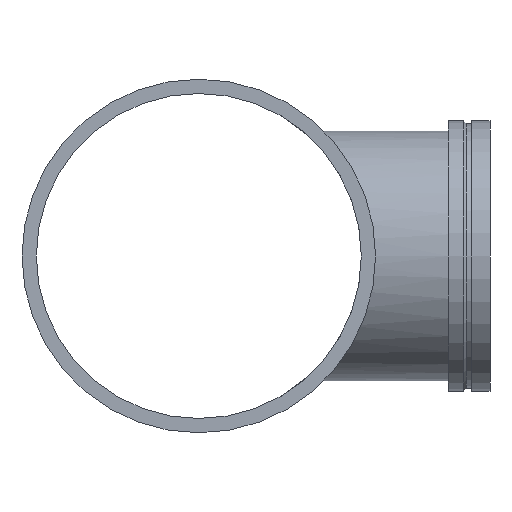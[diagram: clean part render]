
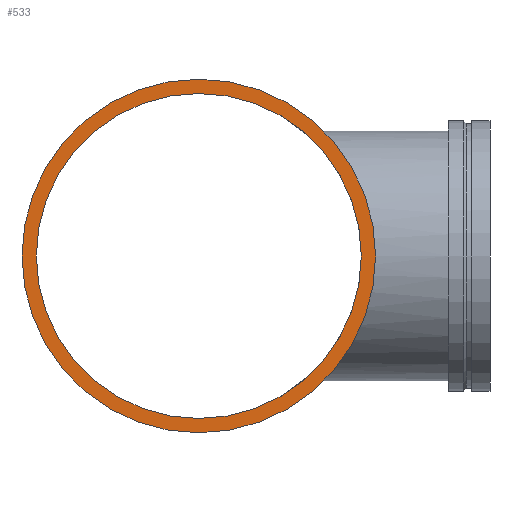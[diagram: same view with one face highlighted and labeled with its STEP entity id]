
A CAD part, left-side view. The second image highlights one B-rep face of the part: STEP entity #533.
In plain terms, the highlighted planar face has unit normal (-1, 0, 0).
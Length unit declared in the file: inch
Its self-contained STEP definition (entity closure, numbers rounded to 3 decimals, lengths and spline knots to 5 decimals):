
#58=FACE_BOUND('',#128,.T.);
#67=PLANE('',#626);
#92=FACE_OUTER_BOUND('',#127,.T.);
#127=EDGE_LOOP('',(#465,#466));
#128=EDGE_LOOP('',(#467,#468));
#151=CIRCLE('',#587,17.);
#152=CIRCLE('',#588,17.);
#175=CIRCLE('',#624,15.625);
#176=CIRCLE('',#625,15.625);
#239=VERTEX_POINT('',#1145);
#240=VERTEX_POINT('',#1147);
#263=VERTEX_POINT('',#1214);
#264=VERTEX_POINT('',#1216);
#299=EDGE_CURVE('',#239,#240,#151,.T.);
#300=EDGE_CURVE('',#240,#239,#152,.T.);
#331=EDGE_CURVE('',#264,#263,#175,.T.);
#332=EDGE_CURVE('',#263,#264,#176,.T.);
#465=ORIENTED_EDGE('',*,*,#300,.F.);
#466=ORIENTED_EDGE('',*,*,#299,.F.);
#467=ORIENTED_EDGE('',*,*,#331,.T.);
#468=ORIENTED_EDGE('',*,*,#332,.T.);
#533=ADVANCED_FACE('',(#92,#58),#67,.T.);
#587=AXIS2_PLACEMENT_3D('',#1148,#716,#717);
#588=AXIS2_PLACEMENT_3D('',#1149,#718,#719);
#624=AXIS2_PLACEMENT_3D('',#1217,#798,#799);
#625=AXIS2_PLACEMENT_3D('',#1218,#800,#801);
#626=AXIS2_PLACEMENT_3D('',#1219,#802,#803);
#716=DIRECTION('center_axis',(1.,0.,0.));
#717=DIRECTION('ref_axis',(0.,0.,1.));
#718=DIRECTION('center_axis',(1.,0.,0.));
#719=DIRECTION('ref_axis',(0.,0.,1.));
#798=DIRECTION('center_axis',(1.,0.,0.));
#799=DIRECTION('ref_axis',(0.,0.,1.));
#800=DIRECTION('center_axis',(1.,0.,0.));
#801=DIRECTION('ref_axis',(0.,0.,1.));
#802=DIRECTION('center_axis',(-1.,0.,0.));
#803=DIRECTION('ref_axis',(0.,0.,-1.));
#1145=CARTESIAN_POINT('',(-29.5,17.,0.));
#1147=CARTESIAN_POINT('',(-29.5,-17.,0.));
#1148=CARTESIAN_POINT('Origin',(-29.5,0.,0.));
#1149=CARTESIAN_POINT('Origin',(-29.5,0.,0.));
#1214=CARTESIAN_POINT('',(-29.5,15.625,0.));
#1216=CARTESIAN_POINT('',(-29.5,-15.625,0.));
#1217=CARTESIAN_POINT('Origin',(-29.5,0.,0.));
#1218=CARTESIAN_POINT('Origin',(-29.5,0.,0.));
#1219=CARTESIAN_POINT('Origin',(-29.5,-17.,0.));
